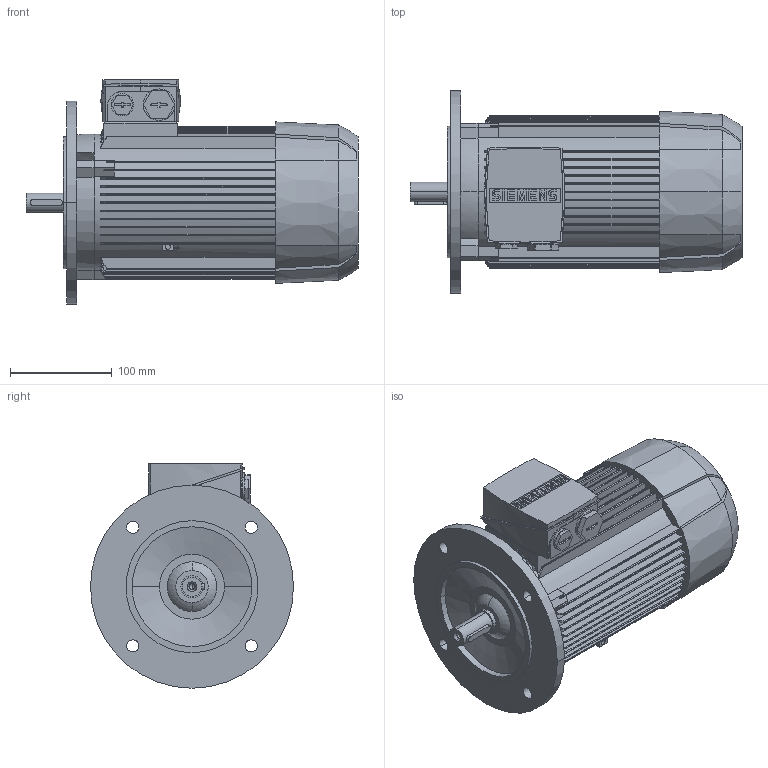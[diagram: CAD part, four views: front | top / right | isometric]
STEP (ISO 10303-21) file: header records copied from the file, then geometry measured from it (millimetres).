
FILE_DESCRIPTION(('STEP AP214'),'1');
FILE_NAME('cctmp_CCEC8485-6B74-4B22-BE77-B8CDB1A8AC75_2024_02_21_11_50_12_0568..stp','2024-02-21T11:50:12',('SIEMENS A&D'),('CADClick - www.CADClick.com'),'Spatial InterOp 3D',' ','unknown authorization');
FILE_SCHEMA(('AUTOMOTIVE_DESIGN'));
Length unit declared in the file: millimetre
Products named in the file (1): 2024_02_21_11_50_12_0568
Bounding box: 327 x 200 x 221 mm (x, y, z)
Volume: 4998026.1 mm3; surface area: 344622.2 mm2
Topology: 1 solids, 1 shells, 606 faces, 1706 edges, 1120 vertices
Faces by surface type: plane 367, cylinder 163, torus 56, cone 20
Entity records: 26148 total; most frequent: CARTESIAN_POINT 5552, ORIENTED_EDGE 3384, DIRECTION 3221, EDGE_CURVE 1692, VERTEX_POINT 1120, AXIS2_PLACEMENT_3D 1098, LINE 1025, VECTOR 1025
